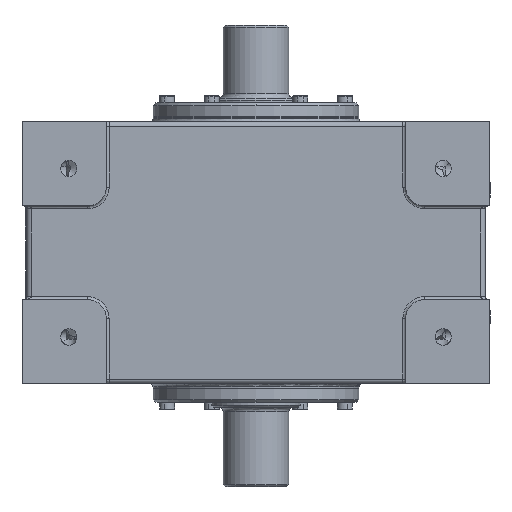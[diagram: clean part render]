
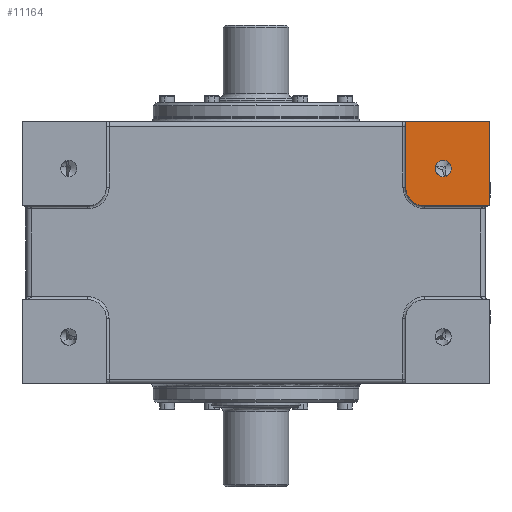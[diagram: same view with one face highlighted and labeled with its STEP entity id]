
A CAD part, front view. The second image highlights one B-rep face of the part: STEP entity #11164.
In plain terms, the highlighted planar face has unit normal (0, -1, 0).
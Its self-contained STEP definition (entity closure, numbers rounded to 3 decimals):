
#26 = ORIENTED_EDGE ( 'NONE', *, *, #60185, .F. ) ;
#1274 = CARTESIAN_POINT ( 'NONE',  ( 160., -515., 70. ) ) ;
#2084 = FACE_BOUND ( 'NONE', #24811, .T. ) ;
#2170 = LINE ( 'NONE', #62298, #39630 ) ;
#2172 = CARTESIAN_POINT ( 'NONE',  ( 160., -515., 139. ) ) ;
#3551 = DIRECTION ( 'NONE',  ( 0., -1., 0. ) ) ;
#4614 = VERTEX_POINT ( 'NONE', #64533 ) ;
#6061 = LINE ( 'NONE', #37875, #45002 ) ;
#7335 = DIRECTION ( 'NONE',  ( 0., 0., 1. ) ) ;
#8398 = ORIENTED_EDGE ( 'NONE', *, *, #51180, .F. ) ;
#10343 = CARTESIAN_POINT ( 'NONE',  ( 250., -515., 140. ) ) ;
#10913 = EDGE_LOOP ( 'NONE', ( #26, #38471, #18346, #65173, #14836 ) ) ;
#11164 = ADVANCED_FACE ( 'NONE', ( #33355, #2084 ), #20632, .F. ) ;
#14836 = ORIENTED_EDGE ( 'NONE', *, *, #60755, .T. ) ;
#15682 = DIRECTION ( 'NONE',  ( -1., 0., 0. ) ) ;
#16136 = DIRECTION ( 'NONE',  ( 0., 1., 0. ) ) ;
#16368 = CARTESIAN_POINT ( 'NONE',  ( 160., -515., 140. ) ) ;
#17371 = DIRECTION ( 'NONE',  ( 1., 0., 0. ) ) ;
#17736 = CARTESIAN_POINT ( 'NONE',  ( 200., -515., 98.75 ) ) ;
#17766 = DIRECTION ( 'NONE',  ( 0., 0., -1. ) ) ;
#18346 = ORIENTED_EDGE ( 'NONE', *, *, #60742, .T. ) ;
#18372 = LINE ( 'NONE', #50212, #33380 ) ;
#20632 = PLANE ( 'NONE',  #51949 ) ;
#24811 = EDGE_LOOP ( 'NONE', ( #29659, #8398 ) ) ;
#27311 = AXIS2_PLACEMENT_3D ( 'NONE', #60315, #30242, #65435 ) ;
#27951 = DIRECTION ( 'NONE',  ( 0., -1., 0. ) ) ;
#29659 = ORIENTED_EDGE ( 'NONE', *, *, #41002, .F. ) ;
#30242 = DIRECTION ( 'NONE',  ( 0., 1., 0. ) ) ;
#30769 = CARTESIAN_POINT ( 'NONE',  ( 180., -515., 50. ) ) ;
#31291 = VERTEX_POINT ( 'NONE', #10343 ) ;
#31670 = LINE ( 'NONE', #2172, #43445 ) ;
#32792 = VERTEX_POINT ( 'NONE', #30769 ) ;
#33355 = FACE_OUTER_BOUND ( 'NONE', #10913, .T. ) ;
#33380 = VECTOR ( 'NONE', #49575, 1000. ) ;
#34208 = CARTESIAN_POINT ( 'NONE',  ( 200., -515., 90. ) ) ;
#35981 = CIRCLE ( 'NONE', #40906, 8.75 ) ;
#37875 = CARTESIAN_POINT ( 'NONE',  ( 250., -515., 140. ) ) ;
#38471 = ORIENTED_EDGE ( 'NONE', *, *, #60365, .T. ) ;
#39101 = VERTEX_POINT ( 'NONE', #49985 ) ;
#39267 = DIRECTION ( 'NONE',  ( 0., 0., -1. ) ) ;
#39630 = VECTOR ( 'NONE', #17371, 1000. ) ;
#39837 = VERTEX_POINT ( 'NONE', #17736 ) ;
#40906 = AXIS2_PLACEMENT_3D ( 'NONE', #57999, #27951, #63116 ) ;
#41002 = EDGE_CURVE ( 'NONE', #39101, #39837, #35981, .T. ) ;
#43445 = VECTOR ( 'NONE', #17766, 1000. ) ;
#45002 = VECTOR ( 'NONE', #7335, 1000. ) ;
#45704 = CIRCLE ( 'NONE', #56264, 8.75 ) ;
#49575 = DIRECTION ( 'NONE',  ( 1., 0., 0. ) ) ;
#49985 = CARTESIAN_POINT ( 'NONE',  ( 200., -515., 81.25 ) ) ;
#50212 = CARTESIAN_POINT ( 'NONE',  ( 160., -515., 140. ) ) ;
#51180 = EDGE_CURVE ( 'NONE', #39837, #39101, #45704, .T. ) ;
#51949 = AXIS2_PLACEMENT_3D ( 'NONE', #16368, #16136, #15682 ) ;
#56264 = AXIS2_PLACEMENT_3D ( 'NONE', #34208, #3551, #39267 ) ;
#56925 = VERTEX_POINT ( 'NONE', #1274 ) ;
#57582 = EDGE_CURVE ( 'NONE', #4614, #31291, #18372, .T. ) ;
#57999 = CARTESIAN_POINT ( 'NONE',  ( 200., -515., 90. ) ) ;
#60071 = CIRCLE ( 'NONE', #27311, 20. ) ;
#60185 = EDGE_CURVE ( 'NONE', #32792, #56925, #60071, .T. ) ;
#60315 = CARTESIAN_POINT ( 'NONE',  ( 180., -515., 70. ) ) ;
#60365 = EDGE_CURVE ( 'NONE', #32792, #64199, #2170, .T. ) ;
#60742 = EDGE_CURVE ( 'NONE', #64199, #31291, #6061, .T. ) ;
#60755 = EDGE_CURVE ( 'NONE', #4614, #56925, #31670, .T. ) ;
#62298 = CARTESIAN_POINT ( 'NONE',  ( 180., -515., 50. ) ) ;
#63116 = DIRECTION ( 'NONE',  ( 0., 0., -1. ) ) ;
#64199 = VERTEX_POINT ( 'NONE', #64797 ) ;
#64533 = CARTESIAN_POINT ( 'NONE',  ( 160., -515., 140. ) ) ;
#64797 = CARTESIAN_POINT ( 'NONE',  ( 250., -515., 50. ) ) ;
#65173 = ORIENTED_EDGE ( 'NONE', *, *, #57582, .F. ) ;
#65435 = DIRECTION ( 'NONE',  ( 0., 0., -1. ) ) ;
